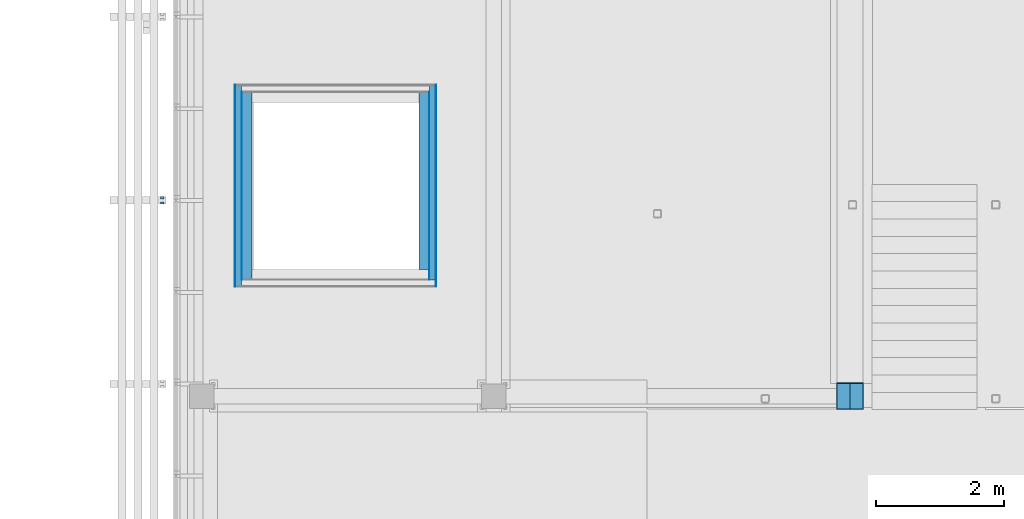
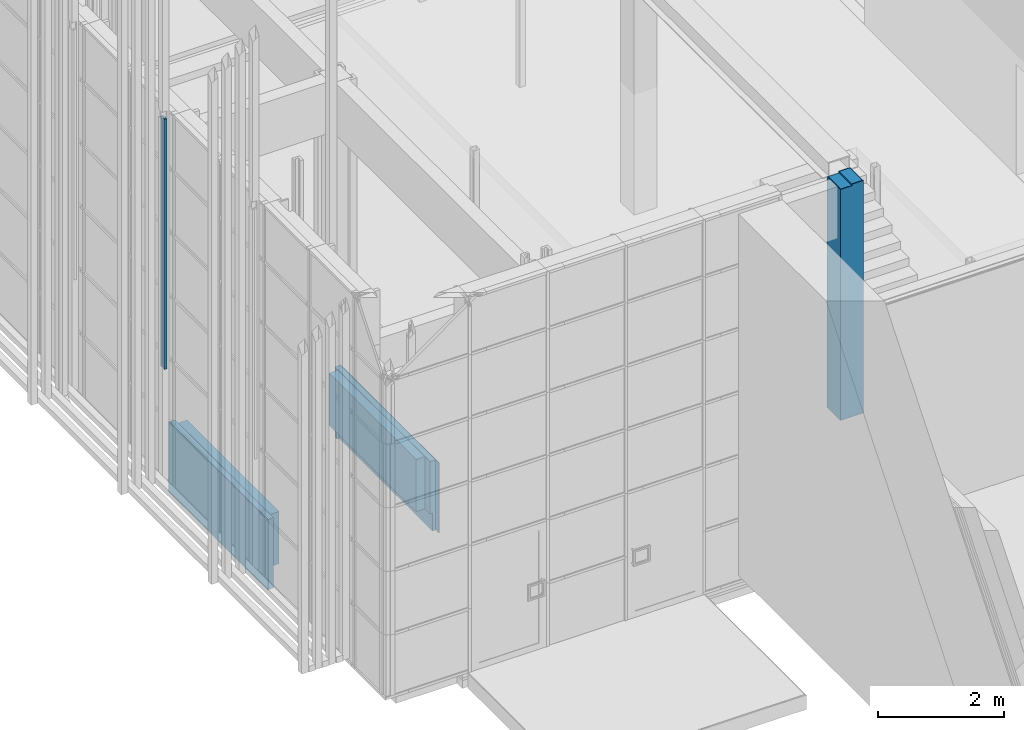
# One storey, part 136 of 260: 10 building element parts, 2 discrete accessories, 3 elements without a shape of their own.
"""IFC2X3 building model written with IfcOpenShell, lengths in millimetres."""

import ifcopenshell
import ifcopenshell.guid

model = None  # the IFC model being written
_history = None  # IfcOwnerHistory: only IFC2X3 demands one
_inside = {}  # id of a spatial element -> (the spatial element, [elements in it])
_under = {}  # id of a project, library or spatial element -> (it, [spatial elements below it])
_declared = {}  # id of a project -> (the project, [libraries it declares])
_typed = {}  # id of a type object -> (the type object, [elements of that type])
_made_of = {}  # id of a material, layer set ... -> (it, [elements and type objects made of it])


def new_model(schema):
    """Start an empty IFC model of exactly this schema.

    Asked for "IFC4X3", IfcOpenShell would pick the latest addendum, in which some entities
    have other attributes; the version numbers below select the first issue.
    IFC2X3 requires an IfcOwnerHistory on every rooted entity: one is made here for all.
    """
    global model, _history
    if schema == "IFC4X3":
        model = ifcopenshell.file(schema_version=(4, 3, 0, 0))
    else:
        model = ifcopenshell.file(schema=schema)
    _inside.clear()
    _under.clear()
    _declared.clear()
    _typed.clear()
    _made_of.clear()
    _history = None
    if model.schema == "IFC2X3":
        org = make("IfcOrganization", Name="unknown")
        user = make(
            "IfcPersonAndOrganization",
            ThePerson=make("IfcPerson", FamilyName="unknown"),
            TheOrganization=org,
        )
        app = make(
            "IfcApplication",
            ApplicationDeveloper=org,
            Version="unknown",
            ApplicationFullName="unknown",
            ApplicationIdentifier="unknown",
        )
        _history = make(
            "IfcOwnerHistory",
            OwningUser=user,
            OwningApplication=app,
            ChangeAction="ADDED",
            CreationDate=0,
        )
    return model


def make(cls, **values):
    """One entity of the class cls with the attributes given. An attribute that is None is left unset."""
    return model.create_entity(
        cls, **{name: value for name, value in values.items() if value is not None}
    )


def entity(cls, *values):
    """Any entity or typed value of the class cls, its attributes in the order of the schema. None: left unset."""
    e = model.create_entity(cls)
    for i, value in enumerate(values):
        if value is not None:
            e[i] = value
    return e


def rooted(cls, **values):
    """An entity with a GlobalId (a new one), such as an element, a storey or a relation."""
    return make(cls, GlobalId=ifcopenshell.guid.new(), OwnerHistory=_history, **values)


def si_unit(unit_type, name, prefix=None):
    """IfcSIUnit, for example si_unit("LENGTHUNIT", "METRE", prefix="MILLI")."""
    return make("IfcSIUnit", UnitType=unit_type, Prefix=prefix, Name=name)


def converted_unit(unit_type, name, factor, base, dimensions=None, offset=None):
    """IfcConversionBasedUnit, such as the inch: factor (a typed value) times the base unit."""
    return make(
        "IfcConversionBasedUnit"
        if offset is None
        else "IfcConversionBasedUnitWithOffset",
        ConversionOffset=offset,
        Dimensions=None
        if dimensions is None
        else entity("IfcDimensionalExponents", *dimensions),
        UnitType=unit_type,
        Name=name,
        ConversionFactor=make(
            "IfcMeasureWithUnit", ValueComponent=factor, UnitComponent=base
        ),
    )


def derived_unit(unit_type, elements):
    """IfcDerivedUnit: a product of units, each with its exponent."""
    return make(
        "IfcDerivedUnit",
        Elements=[
            make("IfcDerivedUnitElement", Unit=unit, Exponent=power)
            for unit, power in elements
        ],
        UnitType=unit_type,
    )


def money_unit(currency):
    """IfcMonetaryUnit."""
    return make("IfcMonetaryUnit", Currency=currency)


def assignment(units):
    """IfcUnitAssignment: the units of a project."""
    return None if units is None else make("IfcUnitAssignment", Units=units)


def point(xyz):
    """IfcCartesianPoint."""
    return None if xyz is None else make("IfcCartesianPoint", Coordinates=xyz)


def direction(xyz):
    """IfcDirection."""
    return None if xyz is None else make("IfcDirection", DirectionRatios=xyz)


def frame(location, z_axis=None, x_axis=None):
    """IfcAxis2Placement3D, a coordinate frame: its origin and axes. An axis left out is left unset."""
    return make(
        "IfcAxis2Placement3D",
        Location=point(location),
        Axis=direction(z_axis),
        RefDirection=direction(x_axis),
    )


def origin_with_axes():
    """The frame at (0, 0, 0) with the z axis (0, 0, 1) and the x axis (1, 0, 0) written out."""
    return frame((0.0, 0.0, 0.0), z_axis=(0.0, 0.0, 1.0), x_axis=(1.0, 0.0, 0.0))


def place(relative_to, where):
    """IfcLocalPlacement: puts the frame where relative to a parent placement (None: the world)."""
    return make(
        "IfcLocalPlacement", PlacementRelTo=relative_to, RelativePlacement=where
    )


def context(
    kind, dimensions, precision=None, world=None, true_north=None, identifier=None
):
    """IfcGeometricRepresentationContext, for example the 3D "Model" context."""
    return make(
        "IfcGeometricRepresentationContext",
        ContextIdentifier=identifier,
        ContextType=kind,
        CoordinateSpaceDimension=dimensions,
        Precision=precision,
        WorldCoordinateSystem=world,
        TrueNorth=true_north,
    )


def subcontext(parent, identifier, kind, view, scale=None):
    """IfcGeometricRepresentationSubContext, for example "Body" below "Model"."""
    return make(
        "IfcGeometricRepresentationSubContext",
        ContextIdentifier=identifier,
        ContextType=kind,
        ParentContext=parent,
        TargetScale=scale,
        TargetView=view,
    )


def project(units=None, contexts=None):
    """IfcProject with its units and contexts."""
    return rooted(
        "IfcProject",
        Name="project",
        RepresentationContexts=contexts,
        UnitsInContext=assignment(units),
    )


def spatial(cls, under=None, at=None, **own):
    """A site, building, storey or space (cls), placed at a placement, below another one or the project."""
    s = rooted(cls, ObjectPlacement=at, **own)
    if under is not None:
        _under.setdefault(under.id(), (under, []))[1].append(s)
    return s


def faces_of(points, faces, orient=None, outer=None):
    """IfcFace entities. A face is a list of loops; a loop is a list of indices into points, from 0.

    orient and outer hold one flag for each loop. By default every Orientation is true, the
    first loop of a face is its IfcFaceOuterBound and the others are IfcFaceBound.
    """
    made = []
    for i, loops in enumerate(faces):
        bounds = []
        for j, loop in enumerate(loops):
            is_outer = j == 0 if outer is None else outer[i][j]
            bounds.append(
                make(
                    "IfcFaceOuterBound" if is_outer else "IfcFaceBound",
                    Bound=make("IfcPolyLoop", Polygon=[points[k] for k in loop]),
                    Orientation=True if orient is None else orient[i][j],
                )
            )
        made.append(make("IfcFace", Bounds=bounds))
    return made


def faceted_brep(points, faces, orient=None, outer=None, voids=None):
    """IfcFacetedBrep: a solid bounded by flat faces; with voids (closed shells), ...WithVoids."""
    shared = [point(p) for p in points]
    hull = make("IfcClosedShell", CfsFaces=faces_of(shared, faces, orient, outer))
    if voids is None:
        return make("IfcFacetedBrep", Outer=hull)
    return make(
        "IfcFacetedBrepWithVoids",
        Outer=hull,
        Voids=[
            make(cls, CfsFaces=faces_of(shared, fs, o, b)) for cls, fs, o, b in voids
        ],
    )


def shape(context_of_items, identifier, shape_type, items):
    """IfcShapeRepresentation: the items that make up one representation, for example the "Body"."""
    return make(
        "IfcShapeRepresentation",
        ContextOfItems=context_of_items,
        RepresentationIdentifier=identifier,
        RepresentationType=shape_type,
        Items=items,
    )


def material(Name=None, Category=None):
    """IfcMaterial."""
    return make("IfcMaterial", Name=Name, Category=Category)


def made_of(thing, what):
    """Note that an element or type object is made of a material, layer set ...; save() writes the relation."""
    if what is not None:
        _made_of.setdefault(what.id(), (what, []))[1].append(thing)
    return thing


def type_object(cls, material=None, **own):
    """A type object (cls), such as IfcWallType, which elements share."""
    return made_of(rooted(cls, **own), material)


def element(
    cls,
    number,
    at=None,
    inside=None,
    cuts=None,
    type_object=None,
    material=None,
    context=None,
    identifier="Body",
    shape_type=None,
    held_by="IfcProductDefinitionShape",
    body=None,
    shapes=None,
    **own,
):
    """One element of the class cls, such as IfcWall. Its Tag is "e" and its number.

    at: its placement. inside: the storey or other place that contains it. cuts: it is an
    opening in that element (IfcRelVoidsElement). A single representation is given by context,
    identifier, shape_type and body (its items); several are given by shapes. held_by: the class
    of the entity that holds the representations. save() writes the other relations.
    """
    e = rooted(cls, Tag="e%d" % number, ObjectPlacement=at, **own)
    if body is not None:
        shapes = [shape(context, identifier, shape_type, body)]
    if shapes is not None:
        e.Representation = make(held_by, Representations=shapes)
    if inside is not None:
        _inside.setdefault(inside.id(), (inside, []))[1].append(e)
    if cuts is not None:
        rooted(
            "IfcRelVoidsElement", RelatingBuildingElement=cuts, RelatedOpeningElement=e
        )
    if type_object is not None:
        _typed.setdefault(type_object.id(), (type_object, []))[1].append(e)
    return made_of(e, material)


def aggregate(whole, parts):
    """IfcRelAggregates: a whole, such as a stair, and the parts it consists of."""
    return rooted("IfcRelAggregates", RelatingObject=whole, RelatedObjects=parts)


def save(model, path):
    """Write the relations noted so far, then the file.

    IfcRelAggregates (storeys below a building ...), IfcRelContainedInSpatialStructure (elements
    in a storey), IfcRelDefinesByType, IfcRelAssociatesMaterial and IfcRelDeclares: one each for
    every whole, place, type object, material and project.
    """
    for whole, parts in _under.values():
        aggregate(whole, parts)
    for where, things in _inside.values():
        rooted(
            "IfcRelContainedInSpatialStructure",
            RelatedElements=things,
            RelatingStructure=where,
        )
    for kind, things in _typed.values():
        rooted("IfcRelDefinesByType", RelatedObjects=things, RelatingType=kind)
    for what, things in _made_of.values():
        rooted("IfcRelAssociatesMaterial", RelatedObjects=things, RelatingMaterial=what)
    for by, libraries in _declared.values():
        rooted("IfcRelDeclares", RelatingContext=by, RelatedDefinitions=libraries)
    model.write(path)


model = new_model("IFC2X3")

# Units and contexts
model_context = context("Model", 3, precision=0.01, world=origin_with_axes(), true_north=direction((0.0, 1.0)))
body_context = subcontext(model_context, "Body", "Model", "MODEL_VIEW")
ifc_project = project(units=[si_unit("LENGTHUNIT", "METRE", prefix="MILLI"), si_unit("AREAUNIT", "SQUARE_METRE"), si_unit("VOLUMEUNIT", "CUBIC_METRE"), converted_unit("PLANEANGLEUNIT", "DEGREE", entity("IfcPlaneAngleMeasure", 0.0174532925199), si_unit("PLANEANGLEUNIT", "RADIAN"), dimensions=[0, 0, 0, 0, 0, 0, 0]), money_unit("EUR"), converted_unit("TIMEUNIT", "Year", entity("IfcTimeMeasure", 31556926.0), si_unit("TIMEUNIT", "SECOND"), dimensions=[0, 0, 1, 0, 0, 0, 0]), si_unit("MASSUNIT", "GRAM", prefix="KILO"), si_unit("THERMODYNAMICTEMPERATUREUNIT", "DEGREE_CELSIUS"), si_unit("LUMINOUSINTENSITYUNIT", "LUMEN"), si_unit("ENERGYUNIT", "JOULE", prefix="MEGA"), derived_unit("THERMALCONDUCTANCEUNIT", [(si_unit("POWERUNIT", "WATT"), 1), (si_unit("LENGTHUNIT", "METRE"), -1), (si_unit("THERMODYNAMICTEMPERATUREUNIT", "KELVIN"), -1)]), derived_unit("SPECIFICHEATCAPACITYUNIT", [(si_unit("ENERGYUNIT", "JOULE"), 1), (si_unit("MASSUNIT", "GRAM", prefix="KILO"), -1), (si_unit("THERMODYNAMICTEMPERATUREUNIT", "KELVIN"), -1)]), derived_unit("MASSDENSITYUNIT", [(si_unit("MASSUNIT", "GRAM", prefix="KILO"), 1), (si_unit("VOLUMEUNIT", "CUBIC_METRE"), -1)])], contexts=[model_context])

# Site, building, storey
site_placement = place(None, origin_with_axes())
site = spatial("IfcSite", under=ifc_project, at=site_placement, Name="Kolde pst 67a", CompositionType="ELEMENT")
building_placement = place(site_placement, origin_with_axes())
building = spatial("IfcBuilding", under=site, at=building_placement, Name="Riigigümnaasium", CompositionType="ELEMENT")
storey_placement = place(building_placement, origin_with_axes())
storey = spatial("IfcBuildingStorey", under=building, at=storey_placement, Name="1. korrus", CompositionType="ELEMENT", Elevation=0.0)

# Discrete accessories
ifc_material_1 = material(Name="_METALL - teras")
discrete_accessory_type = type_object("IfcDiscreteAccessoryType", Name="_METALL - teras 50 x 35")
discrete_accessory_1_placement = place(storey_placement, frame((47614.9932516, 13989.2336141, 2430.0), z_axis=(0.0, 0.0, 1.0), x_axis=(-1.0, 0.0, 0.0)))
element("IfcDiscreteAccessory", 1, at=discrete_accessory_1_placement, inside=storey, type_object=discrete_accessory_type, material=ifc_material_1, Name="Varjestuskardina külgsiin RENSON või analoog", context=body_context, shape_type="Brep", body=[
    faceted_brep([(-25.0, -17.5, 4839.99966445), (-25.0, -17.5, 0.0), (25.0, -17.5, 0.0), (25.0, -17.5, 4839.99966445), (-25.0, 17.5, 4839.99966445), (-25.0, 17.5, 0.0), (25.0, 17.5, 0.0), (25.0, 17.5, 4839.99966445)], [[[0, 1, 2, 3]], [[4, 5, 1, 0]], [[2, 1, 5, 6]], [[3, 2, 6, 7]], [[4, 0, 3, 7]], [[7, 6, 5, 4]]]),
])
discrete_accessory_2_placement = place(storey_placement, frame((47614.9932516, 13909.2334885, 2430.0), z_axis=(0.0, 0.0, 1.0), x_axis=(1.0, 0.0, 0.0)))
element("IfcDiscreteAccessory", 2, at=discrete_accessory_2_placement, inside=storey, type_object=discrete_accessory_type, material=ifc_material_1, Name="Varjestuskardina külgsiin RENSON või analoog", context=body_context, shape_type="Brep", body=[
    faceted_brep([(25.0, 17.5, 4839.99966445), (25.0, 17.5, 0.0), (-25.0, 17.5, 0.0), (-25.0, 17.5, 4839.99966445), (25.0, -17.5, 4839.99966445), (25.0, -17.5, 0.0), (-25.0, -17.5, 0.0), (-25.0, -17.5, 4839.99966445)], [[[0, 1, 2, 3]], [[4, 5, 1, 0]], [[2, 1, 5, 6]], [[3, 2, 6, 7]], [[4, 0, 3, 7]], [[7, 6, 5, 4]]]),
])

# Column, building element parts
column_type = type_object("IfcColumnType", Name="_KANDETARIND - raudbetoon C25/30 vastavalt EK osale 420 x 420", PredefinedType="COLUMN")
column_placement = place(storey_placement, frame((58329.9488956, 10899.9619407, -300.0), z_axis=(0.0, 0.0, 1.0), x_axis=(1.0, 0.0, 0.0)))
column = element("IfcColumn", 3, at=column_placement, inside=storey, type_object=column_type, Name="POST", ObjectType="COLUMN")
ifc_material_2 = material(Name="_VIIMISTLUSKIHT - puit")
building_element_part_1_placement = place(column_placement, origin_with_axes())
building_element_part_1 = element("IfcBuildingElementPart", 4, at=building_element_part_1_placement, material=ifc_material_2, Name="_VIIMISTLUSKIHT - puit", context=body_context, shape_type="Brep", body=[
    faceted_brep([(-210.0, 210.0, 4470.0), (-1.88571860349e-05, 210.0, 4470.0), (-1.69040461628e-05, 210.0, 4500.0), (210.0, 210.0, 4500.0), (210.0, 210.0, 0.0), (-210.0, 210.0, 0.0), (-210.0, -210.0, 4470.0), (-1.88571860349e-05, -210.0, 4470.0), (-1.88571860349e-05, -199.999997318, 4470.0), (-199.999997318, -199.999997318, 4470.0), (-199.999997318, 199.999997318, 4470.0), (-1.88571860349e-05, 199.999997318, 4470.0), (-1.69505511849e-05, 199.999997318, 4500.0), (-1.88106810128e-05, -199.999997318, 4500.0), (-1.88571860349e-05, -210.0, 4500.0), (210.0, -210.0, 4500.0), (199.999997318, 199.999997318, 4500.0), (199.999997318, -199.999997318, 4500.0), (210.0, -210.0, 0.0), (-210.0, -210.0, 0.0), (-199.999997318, 199.999997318, 0.0), (-199.999997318, -199.999997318, 0.0), (199.999997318, -199.999997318, 0.0), (199.999997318, 199.999997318, 0.0)], [[[0, 1, 2, 3, 4, 5]], [[1, 0, 6, 7, 8, 9, 10, 11]], [[12, 2, 1, 11]], [[13, 14, 15, 3, 2, 12, 16, 17]], [[15, 18, 4, 3]], [[19, 5, 4, 18], [20, 21, 22, 23]], [[6, 0, 5, 19]], [[7, 6, 19, 18, 15, 14]], [[14, 13, 8, 7]], [[8, 13, 17, 22, 21, 9]], [[10, 9, 21, 20]], [[11, 10, 20, 23, 16, 12]], [[16, 23, 22, 17]]]),
])
ifc_material_3 = material(Name="_KANDETARIND - raudbetoon C25/30 vastavalt EK osale")
building_element_part_2_placement = place(column_placement, origin_with_axes())
building_element_part_2 = element("IfcBuildingElementPart", 5, at=building_element_part_2_placement, material=ifc_material_3, Name="_KANDETARIND - raudbetoon C25/30 vastavalt EK osale", context=body_context, shape_type="Brep", body=[
    faceted_brep([(-200.0, 200.0, 4470.0), (-1.88571860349e-05, 200.0, 4470.0), (-1.69505511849e-05, 200.0, 4500.0), (200.0, 200.0, 4500.0), (200.0, 200.0, 0.0), (-200.0, 200.0, 0.0), (-200.0, -200.0, 4470.0), (-1.88571860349e-05, -200.0, 4470.0), (-1.88106810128e-05, -200.0, 4500.0), (200.0, -200.0, 4500.0), (200.0, -200.0, 0.0), (-200.0, -200.0, 0.0)], [[[0, 1, 2, 3, 4, 5]], [[1, 0, 6, 7]], [[8, 2, 1, 7]], [[2, 8, 9, 3]], [[9, 10, 4, 3]], [[10, 11, 5, 4]], [[6, 0, 5, 11]], [[7, 6, 11, 10, 9, 8]]]),
])
aggregate(column, [building_element_part_1, building_element_part_2])

# Wall, building element parts
wall_type = type_object("IfcWallType", Name="VS-RB-16/1_mullakast 273", PredefinedType="NOTDEFINED")
wall_1_placement = place(storey_placement, frame((48854.9898134, 15634.9809575, -1460.1), z_axis=(0.0, 0.0, 1.0), x_axis=(0.0, -1.0, 0.0)))
wall_1 = element("IfcWall", 6, at=wall_1_placement, inside=storey, type_object=wall_type, Name="taimekast")
ifc_material_4 = material(Name="_KANDETARIND - monoliitne raudbetoon vastavalt EK osale")
building_element_part_3_placement = place(wall_1_placement, origin_with_axes())
building_element_part_3 = element("IfcBuildingElementPart", 7, at=building_element_part_3_placement, material=ifc_material_4, Name="_KANDETARIND - monoliitne raudbetoon vastavalt EK osale", context=body_context, shape_type="Brep", body=[
    faceted_brep([(2920.0, 160.0, 350.1), (0.0, 160.0, 350.1), (0.0, 160.0, 1360.1), (2920.0, 160.0, 1360.1), (0.0, 0.0, 350.1), (2920.0, 0.0, 350.1), (0.0, 0.0, 1360.1), (2920.0, 0.0, 1360.1)], [[[0, 1, 2, 3]], [[4, 1, 0, 5]], [[1, 4, 6, 2]], [[7, 3, 2, 6]], [[5, 0, 3, 7]], [[4, 5, 7, 6]]]),
])
ifc_material_5 = material(Name="_HÜDROISOLATSIOON/RADOONITÕKE - eelpaigaldatav elastne hüdroisolatsioonimembraan, värske betooniga nakkuv, radoonitihe, FORSOC PROOFEX 3000 või samaväärne")
building_element_part_4_placement = place(wall_1_placement, origin_with_axes())
building_element_part_4 = element("IfcBuildingElementPart", 8, at=building_element_part_4_placement, material=ifc_material_5, Name="_HÜDROISOLATSIOON/RADOONITÕKE - eelpaigaldatav elastne hüdroisolatsioonimembraan, värske betooniga nakkuv, radoonitihe, FORSOC PROOFEX 3000 või samaväärne", context=body_context, shape_type="Brep", body=[
    faceted_brep([(2923.0, 0.0, 350.1), (-3.0, 0.0, 350.1), (-3.0, 0.0, 1360.1), (2923.0, 0.0, 1360.1), (-3.0, -3.0, 350.1), (2923.0, -3.0, 350.1), (-3.0, -3.0, 1360.1), (2923.0, -3.0, 1360.1)], [[[0, 1, 2, 3]], [[4, 1, 0, 5]], [[1, 4, 6, 2]], [[7, 3, 2, 6]], [[5, 0, 3, 7]], [[4, 5, 7, 6]]]),
])
ifc_material_6 = material(Name="_SOOJUSTUS - vahtpolüstüreenplaadid EPS 120 Perimeeter, survetugevus min. 120kPa, veeimavus <2%, soojuserijuhtivus λD<0,036 W/(mK)")
building_element_part_5_placement = place(wall_1_placement, origin_with_axes())
building_element_part_5 = element("IfcBuildingElementPart", 9, at=building_element_part_5_placement, material=ifc_material_6, Name="_SOOJUSTUS - vahtpolüstüreenplaadid EPS 120 Perimeeter, survetugevus min. 120kPa, veeimavus <2%, soojuserijuhtivus λD<0,036 W/(mK)", context=body_context, shape_type="Brep", body=[
    faceted_brep([(2963.0, -3.0, 0.0), (2963.0, -3.0, 350.1), (-43.0, -3.0, 350.1), (-43.0, -3.0, 0.0), (-103.0, -3.0, 0.0), (-103.0, -3.0, 1360.1), (3023.0, -3.0, 1360.1), (3023.0, -3.0, 0.0), (2963.0, -43.0, 0.0), (2963.0, -43.0, 350.1), (-43.0, -43.0, 350.1), (-43.0, -43.0, 0.0), (3023.0, -103.0, 0.0), (-103.0, -103.0, 0.0), (-103.0, -103.0, 1360.1), (3023.0, -103.0, 1360.1)], [[[0, 1, 2, 3, 4, 5, 6, 7]], [[1, 0, 8, 9]], [[2, 1, 9, 10]], [[3, 2, 10, 11]], [[8, 0, 7, 12, 13, 4, 3, 11]], [[5, 4, 13, 14]], [[15, 6, 5, 14]], [[12, 7, 6, 15]], [[8, 11, 10, 9]], [[12, 15, 14, 13]]]),
])
ifc_material_7 = material(Name="_ALUSKATE - drenaaži- ja kaitsematt geotekstiiliga soojustuse kaitseks, Interplast Iso-Drain 8 Geo või samaväärne")
building_element_part_6_placement = place(wall_1_placement, origin_with_axes())
building_element_part_6 = element("IfcBuildingElementPart", 10, at=building_element_part_6_placement, material=ifc_material_7, Name="_ALUSKATE - drenaaži- ja kaitsematt geotekstiiliga soojustuse kaitseks, Interplast Iso-Drain 8 Geo või samaväärne", context=body_context, shape_type="Brep", body=[
    faceted_brep([(3033.0, -113.0, 0.0), (-113.0, -113.0, 0.0), (-113.0, -103.0, 0.0), (3033.0, -103.0, 0.0), (3033.0, -113.0, 1360.1), (-113.0, -113.0, 1360.1), (-113.0, -103.0, 1360.1), (3033.0, -103.0, 1360.1)], [[[0, 1, 2, 3]], [[4, 5, 1, 0]], [[2, 1, 5, 6]], [[3, 2, 6, 7]], [[3, 7, 4, 0]], [[7, 6, 5, 4]]]),
])
aggregate(wall_1, [building_element_part_3, building_element_part_4, building_element_part_5, building_element_part_6])

wall_2_placement = place(storey_placement, frame((51774.9898134, 12714.9809575, -1460.1), z_axis=(0.0, 0.0, 1.0), x_axis=(0.0, 1.0, 0.0)))
wall_2 = element("IfcWall", 11, at=wall_2_placement, inside=storey, type_object=wall_type, Name="taimekast")
building_element_part_7_placement = place(wall_2_placement, origin_with_axes())
building_element_part_7 = element("IfcBuildingElementPart", 12, at=building_element_part_7_placement, material=ifc_material_4, Name="_KANDETARIND - monoliitne raudbetoon vastavalt EK osale", context=body_context, shape_type="Brep", body=[
    faceted_brep([(160.0, 0.0, 350.1), (2920.0, 0.0, 350.1), (2920.0, 0.0, 1360.1), (160.0, 0.0, 1360.1), (2920.0, 160.0, 350.1), (160.0, 160.0, 350.1), (2920.0, 160.0, 1360.1), (160.0, 160.0, 1360.1)], [[[0, 1, 2, 3]], [[4, 1, 0, 5]], [[1, 4, 6, 2]], [[2, 6, 7, 3]], [[5, 0, 3, 7]], [[4, 5, 7, 6]]]),
])
building_element_part_8_placement = place(wall_2_placement, origin_with_axes())
building_element_part_8 = element("IfcBuildingElementPart", 13, at=building_element_part_8_placement, material=ifc_material_5, Name="_HÜDROISOLATSIOON/RADOONITÕKE - eelpaigaldatav elastne hüdroisolatsioonimembraan, värske betooniga nakkuv, radoonitihe, FORSOC PROOFEX 3000 või samaväärne", context=body_context, shape_type="Brep", body=[
    faceted_brep([(0.0, -3.0, 350.1), (2923.0, -3.0, 350.1), (2923.0, -3.0, 1360.1), (0.0, -3.0, 1360.1), (2923.0, 0.0, 350.1), (0.0, 0.0, 350.1), (2923.0, 0.0, 1360.1), (0.0, 0.0, 1360.1)], [[[0, 1, 2, 3]], [[4, 1, 0, 5]], [[1, 4, 6, 2]], [[2, 6, 7, 3]], [[5, 0, 3, 7]], [[4, 5, 7, 6]]]),
])
building_element_part_9_placement = place(wall_2_placement, origin_with_axes())
building_element_part_9 = element("IfcBuildingElementPart", 14, at=building_element_part_9_placement, material=ifc_material_6, Name="_SOOJUSTUS - vahtpolüstüreenplaadid EPS 120 Perimeeter, survetugevus min. 120kPa, veeimavus <2%, soojuserijuhtivus λD<0,036 W/(mK)", context=body_context, shape_type="Brep", body=[
    faceted_brep([(2963.0, -43.0, 0.0), (2963.0, -3.0, 0.0), (3023.0, -3.0, 0.0), (3023.0, -103.0, 0.0), (-3.0, -103.0, 0.0), (-3.0, -43.0, 0.0), (2963.0, -43.0, 350.1), (2963.0, -3.0, 350.1), (-3.0, -3.0, 350.1), (-3.0, -3.0, 1360.1), (3023.0, -3.0, 1360.1), (3023.0, -103.0, 1360.1), (-3.0, -103.0, 1360.1), (-3.0, -43.0, 350.1)], [[[0, 1, 2, 3, 4, 5]], [[1, 0, 6, 7]], [[7, 8, 9, 10, 2, 1]], [[3, 2, 10, 11]], [[3, 11, 12, 4]], [[13, 5, 4, 12, 9, 8]], [[0, 5, 13, 6]], [[13, 8, 7, 6]], [[11, 10, 9, 12]]]),
])
building_element_part_10_placement = place(wall_2_placement, origin_with_axes())
building_element_part_10 = element("IfcBuildingElementPart", 15, at=building_element_part_10_placement, material=ifc_material_7, Name="_ALUSKATE - drenaaži- ja kaitsematt geotekstiiliga soojustuse kaitseks, Interplast Iso-Drain 8 Geo või samaväärne", context=body_context, shape_type="Brep", body=[
    faceted_brep([(3033.0, -113.0, 0.0), (-103.0, -113.0, 0.0), (-103.0, -103.0, 0.0), (3033.0, -103.0, 0.0), (3033.0, -113.0, 1360.1), (-103.0, -113.0, 1360.1), (-103.0, -103.0, 1360.1), (3033.0, -103.0, 1360.1)], [[[0, 1, 2, 3]], [[4, 5, 1, 0]], [[2, 1, 5, 6]], [[3, 2, 6, 7]], [[3, 7, 4, 0]], [[7, 6, 5, 4]]]),
])
aggregate(wall_2, [building_element_part_7, building_element_part_8, building_element_part_9, building_element_part_10])

save(model, "model.ifc")
